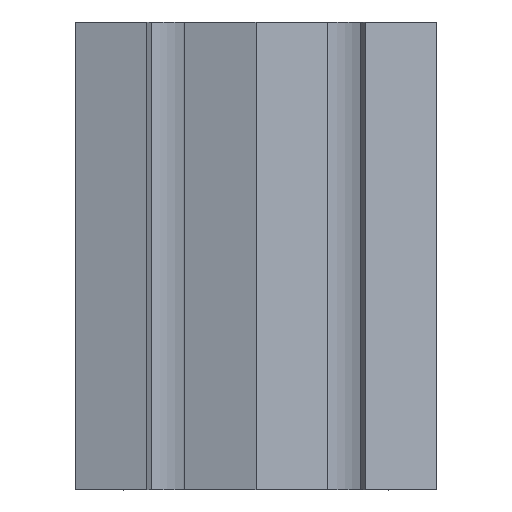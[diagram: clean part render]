
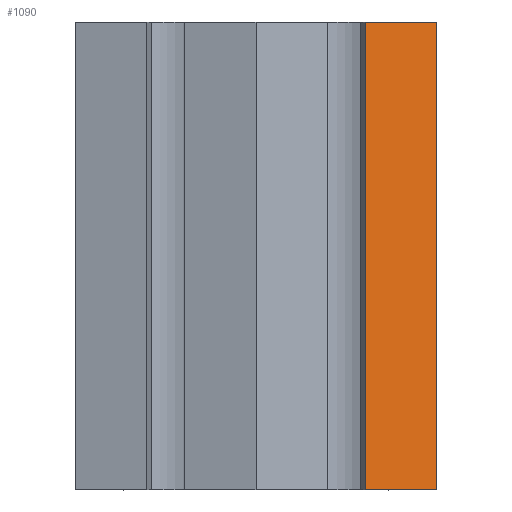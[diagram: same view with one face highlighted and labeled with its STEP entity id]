
A CAD part, top view. The second image highlights one B-rep face of the part: STEP entity #1090.
In plain terms, the highlighted planar face has unit normal (0.259, 0, 0.966).
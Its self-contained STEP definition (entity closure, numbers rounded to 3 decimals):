
#66=LINE('',#1622,#196);
#82=LINE('',#1683,#212);
#115=LINE('',#1760,#245);
#118=LINE('',#1765,#248);
#196=VECTOR('',#1291,1000.);
#212=VECTOR('',#1337,1000.);
#245=VECTOR('',#1384,1000.);
#248=VECTOR('',#1391,1000.);
#410=ORIENTED_EDGE('',*,*,#650,.F.);
#411=ORIENTED_EDGE('',*,*,#722,.T.);
#412=ORIENTED_EDGE('',*,*,#680,.T.);
#413=ORIENTED_EDGE('',*,*,#719,.T.);
#650=EDGE_CURVE('',#808,#809,#66,.T.);
#680=EDGE_CURVE('',#839,#838,#82,.T.);
#719=EDGE_CURVE('',#838,#809,#115,.T.);
#722=EDGE_CURVE('',#808,#839,#118,.T.);
#808=VERTEX_POINT('',#1621);
#809=VERTEX_POINT('',#1623);
#838=VERTEX_POINT('',#1682);
#839=VERTEX_POINT('',#1684);
#918=EDGE_LOOP('',(#410,#411,#412,#413));
#988=FACE_BOUND('',#918,.T.);
#1048=PLANE('',#1187);
#1090=ADVANCED_FACE('',(#988),#1048,.T.);
#1187=AXIS2_PLACEMENT_3D('',#1764,#1389,#1390);
#1291=DIRECTION('',(0.966,0.,-0.259));
#1337=DIRECTION('',(0.966,0.,-0.259));
#1384=DIRECTION('',(0.,1.,0.));
#1389=DIRECTION('',(0.259,0.,0.966));
#1390=DIRECTION('',(0.966,0.,-0.259));
#1391=DIRECTION('',(0.,-1.,0.));
#1621=CARTESIAN_POINT('',(23.375,50.,35.148));
#1622=CARTESIAN_POINT('',(0.,50.,41.411));
#1623=CARTESIAN_POINT('',(38.637,50.,31.058));
#1682=CARTESIAN_POINT('',(38.637,-50.,31.058));
#1683=CARTESIAN_POINT('',(0.,-50.,41.411));
#1684=CARTESIAN_POINT('',(23.375,-50.,35.148));
#1760=CARTESIAN_POINT('',(38.637,-50.,31.058));
#1764=CARTESIAN_POINT('',(0.,-50.,41.411));
#1765=CARTESIAN_POINT('',(23.375,-50.,35.148));
